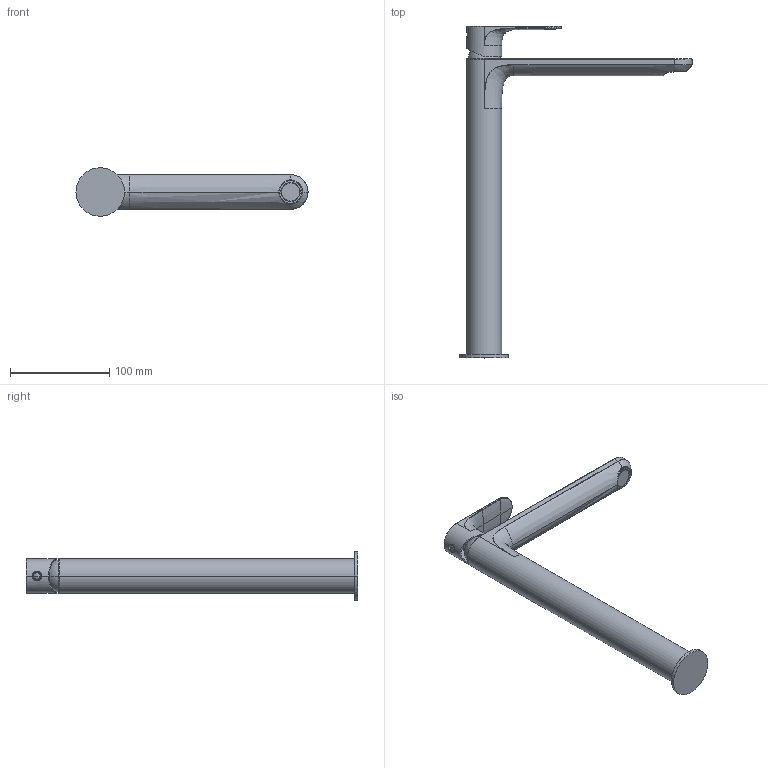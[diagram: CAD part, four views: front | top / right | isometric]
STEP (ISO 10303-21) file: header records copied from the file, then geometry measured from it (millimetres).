
FILE_DESCRIPTION((''),'2;1');
FILE_NAME('64065_SW0001','2020-06-04T14:06:33',('volponeff'),(''),'CREO PARAMETRIC BY PTC INC, 2018100','CREO PARAMETRIC BY PTC INC, 2018100','');
FILE_SCHEMA(('CONFIG_CONTROL_DESIGN'));
Length unit declared in the file: millimetre
Products named in the file (1): 64065_SW0001
Bounding box: 233.9 x 334.5 x 48.8 mm (x, y, z)
Volume: 409273.5 mm3; surface area: 68827.7 mm2
Topology: 1 solids, 1 shells, 246 faces, 614 edges, 368 vertices
Faces by surface type: plane 77, cylinder 75, bspline 37, torus 30, cone 17, extrusion 6, sphere 4
Entity records: 12954 total; most frequent: CARTESIAN_POINT 7292, ORIENTED_EDGE 1220, DIRECTION 1131, EDGE_CURVE 610, AXIS2_PLACEMENT_3D 437, VERTEX_POINT 368, VECTOR 257, EDGE_LOOP 256
